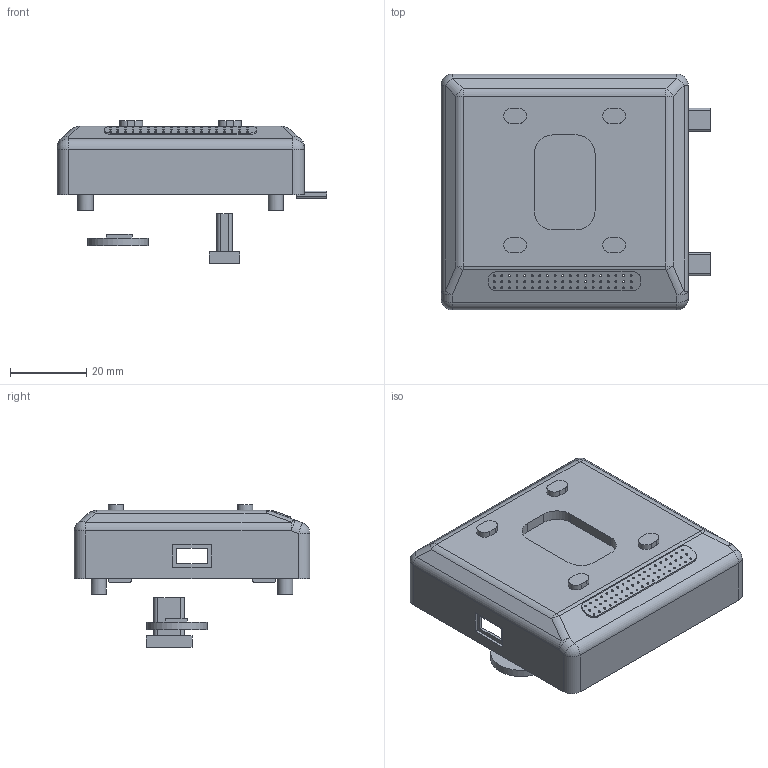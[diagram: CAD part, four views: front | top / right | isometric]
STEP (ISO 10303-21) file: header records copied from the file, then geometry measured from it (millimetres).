
FILE_DESCRIPTION(/* description */ (''),/* implementation_level */ '2;1');
FILE_NAME(/* name */ '样题5.stp',/* time_stamp */ '2021-03-16T12:58:39+08:00',/* author */ (''),/* organization */ (''),/* preprocessor_version */ 'ST-DEVELOPER v16',/* originating_system */ 'SIEMENS PLM Software NX 10.0',/* authorisation */ '');
FILE_SCHEMA (('AUTOMOTIVE_DESIGN { 1 0 10303 214 3 1 1 1 }'));
Length unit declared in the file: millimetre
Products named in the file (8): 外接件; 电气元件 (2); 电气元件; 屏幕; 电路板; 按钮; 喇叭; 样题5
Assembly tree (12 placements, depth 2):
  样题5
    喇叭
    按钮  x4
    电路板  x2
    屏幕
    电气元件
    电气元件 (2)
    外接件  x2
Bounding box: 70.98 x 62 x 37.5 mm (x, y, z)
Volume: 15360.1 mm3; surface area: 22246.9 mm2
Topology: 13 solids, 13 shells, 369 faces, 942 edges, 596 vertices
Faces by surface type: plane 175, cylinder 117, extrusion 57, sphere 20
Full cylindrical faces by diameter (mm): 1.5 x4, 2 x4, 4 x4, 16 x1
Entity records: 23383 total; most frequent: CARTESIAN_POINT 14980, DIRECTION 1621, ORIENTED_EDGE 1556, EDGE_CURVE 778, AXIS2_PLACEMENT_3D 562, EDGE_LOOP 554, VERTEX_POINT 540, VECTOR 497
